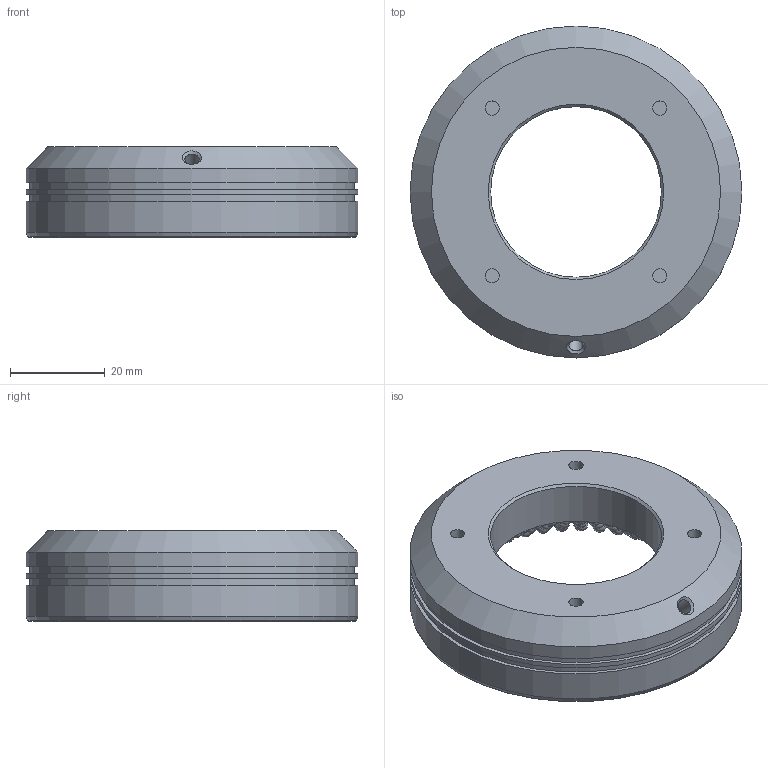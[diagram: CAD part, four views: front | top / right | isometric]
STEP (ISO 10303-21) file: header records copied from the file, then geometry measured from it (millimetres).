
FILE_DESCRIPTION((''),'2;1');
FILE_NAME('D:\上海创波-20181114\2-三维图纸\1-常用光源\WLDR系列\WLDR1系列-xxAGxx\WLDR-45AG70-.stp','2020-02-06T21:30:49',('Administrator'),(''),'Autodesk Inventor 2010','Autodesk Inventor 2010','');
FILE_SCHEMA(('AUTOMOTIVE_DESIGN { 1 0 10303 214 1 1 1 1 }'));
Length unit declared in the file: millimetre
Products named in the file (1): 零件9
Bounding box: 70 x 70 x 19 mm (x, y, z)
Volume: 29387.4 mm3; surface area: 27074.8 mm2
Topology: 86 solids, 86 shells, 813 faces, 2046 edges, 1269 vertices
Faces by surface type: plane 400, cylinder 274, sphere 126, cone 12, bspline 1
Full cylindrical faces by diameter (mm): 1 x3, 2 x4, 3 x131, 36 x1, 39 x1, 42 x1, 61 x1, 65 x1, 68.5 x2, 70 x3
Entity records: 22194 total; most frequent: CARTESIAN_POINT 4584, DIRECTION 3504, ORIENTED_EDGE 2948, EDGE_CURVE 1474, AXIS2_PLACEMENT_3D 1437, EDGE_LOOP 1083, VERTEX_POINT 991, STYLED_ITEM 898
